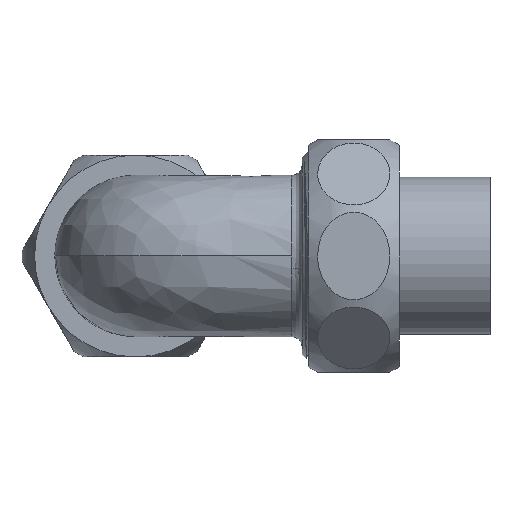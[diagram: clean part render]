
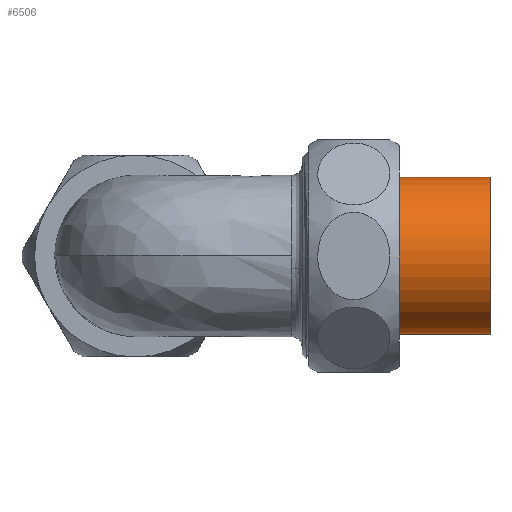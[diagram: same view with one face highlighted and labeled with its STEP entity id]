
A CAD part, front view. The second image highlights one B-rep face of the part: STEP entity #6506.
In plain terms, the highlighted cylindrical face has radius 15.625 mm (diameter 31.25 mm), a full revolution.
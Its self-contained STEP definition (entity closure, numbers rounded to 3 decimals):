
#6479=CARTESIAN_POINT('',(10.75,0.0,0.0));
#6480=DIRECTION('',(1.0,0.0,0.0));
#6481=DIRECTION('',(0.0,1.0,0.0));
#6482=AXIS2_PLACEMENT_3D('',#6479,#6480,#6481);
#6483=CYLINDRICAL_SURFACE('',#6482,15.625);
#6484=CARTESIAN_POINT('',(21.5,15.625,0.0));
#6485=VERTEX_POINT('',#6484);
#6486=CARTESIAN_POINT('',(21.5,0.0,0.0));
#6487=DIRECTION('',(1.0,0.0,0.0));
#6488=DIRECTION('',(0.0,1.0,0.0));
#6489=AXIS2_PLACEMENT_3D('',#6486,#6487,#6488);
#6490=CIRCLE('',#6489,15.625);
#6491=EDGE_CURVE('',#6485,#6485,#6490,.T.);
#6492=ORIENTED_EDGE('',*,*,#6491,.F.);
#6493=EDGE_LOOP('',(#6492));
#6494=FACE_OUTER_BOUND('',#6493,.T.);
#6495=CARTESIAN_POINT('',(0.0,15.625,0.0));
#6496=VERTEX_POINT('',#6495);
#6497=CARTESIAN_POINT('',(0.0,0.0,0.0));
#6498=DIRECTION('',(1.0,0.0,0.0));
#6499=DIRECTION('',(0.0,1.0,0.0));
#6500=AXIS2_PLACEMENT_3D('',#6497,#6498,#6499);
#6501=CIRCLE('',#6500,15.625);
#6502=EDGE_CURVE('',#6496,#6496,#6501,.T.);
#6503=ORIENTED_EDGE('',*,*,#6502,.T.);
#6504=EDGE_LOOP('',(#6503));
#6505=FACE_BOUND('',#6504,.T.);
#6506=ADVANCED_FACE('',(#6494,#6505),#6483,.T.);
